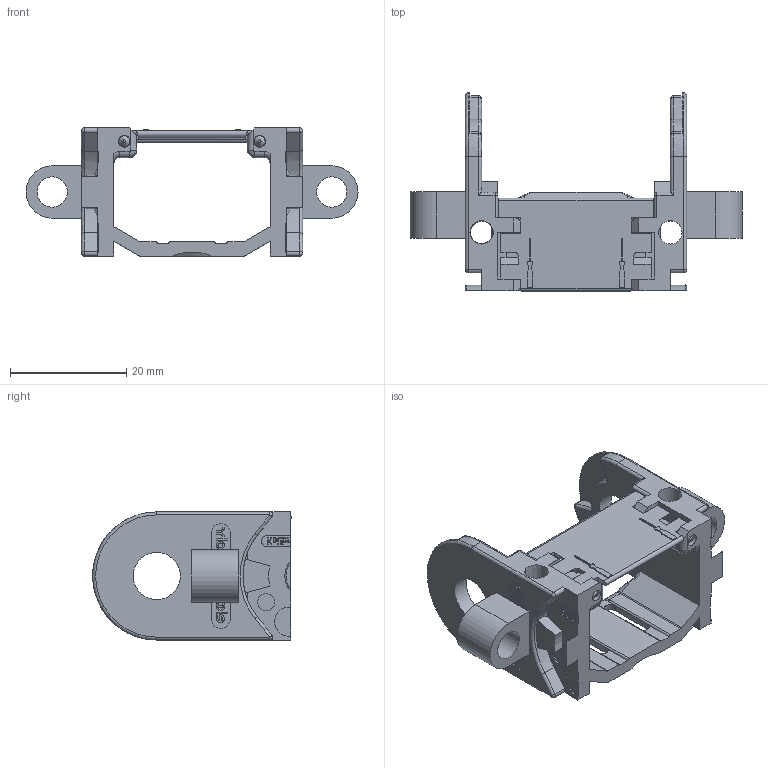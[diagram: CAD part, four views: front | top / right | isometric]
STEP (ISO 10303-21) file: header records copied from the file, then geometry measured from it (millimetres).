
FILE_DESCRIPTION((''),'2;1');
FILE_NAME('C:\Uebbing\PARAMETERKETTEN\KOLIBRI\Kol_22_038_0\KOLIBRI 22_038_0_SFA_Bohrung.stp','2013-04-16T09:16:02',('Uebbing'),(''),'Autodesk Inventor 10','Autodesk Inventor 10','');
FILE_SCHEMA(('AUTOMOTIVE_DESIGN { 1 0 10303 214 1 1 1 1 }'));
Length unit declared in the file: millimetre
Products named in the file (3): KOLIBRI 22_038_0_SFA_Bohrung; Kol_22_038_0_Stirnflansch Bohrung; Kol_22_038_0_Klappsteg
Assembly tree (2 placements, depth 2):
  KOLIBRI 22_038_0_SFA_Bohrung
    Kol_22_038_0_Stirnflansch Bohrung
    Kol_22_038_0_Klappsteg
Bounding box: 57 x 34.1 x 22 mm (x, y, z)
Volume: 6517.4 mm3; surface area: 7548.5 mm2
Topology: 2 solids, 8 shells, 1116 faces, 3027 edges, 1958 vertices
Faces by surface type: bspline 593, plane 341, cylinder 150, torus 18, sphere 8, cone 6
Full cylindrical faces by diameter (mm): 0.804 x1, 1.412 x1, 1.9 x4, 2 x2, 3 x3, 4 x1, 5.2 x1, 8.1 x1
Entity records: 40780 total; most frequent: CARTESIAN_POINT 15252, ORIENTED_EDGE 5956, DIRECTION 4063, EDGE_CURVE 2978, VERTEX_POINT 1949, VECTOR 1841, LINE 1841, EDGE_LOOP 1235
